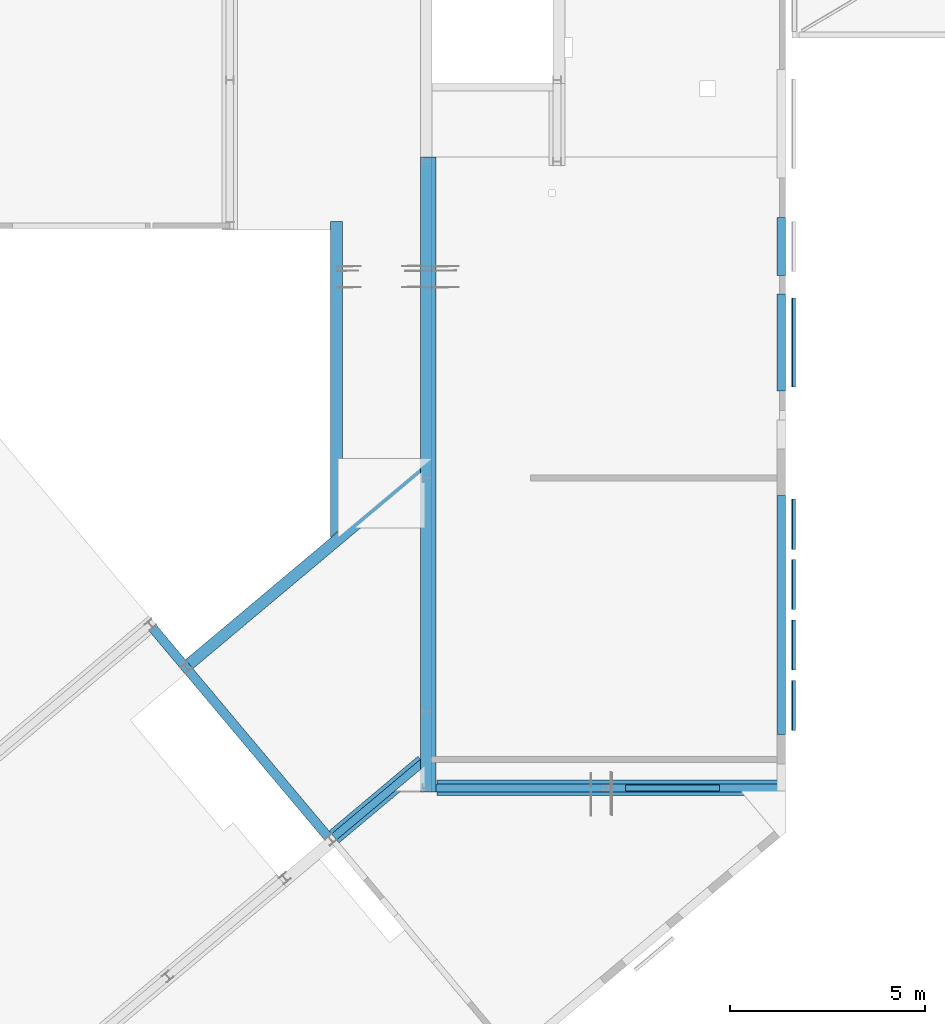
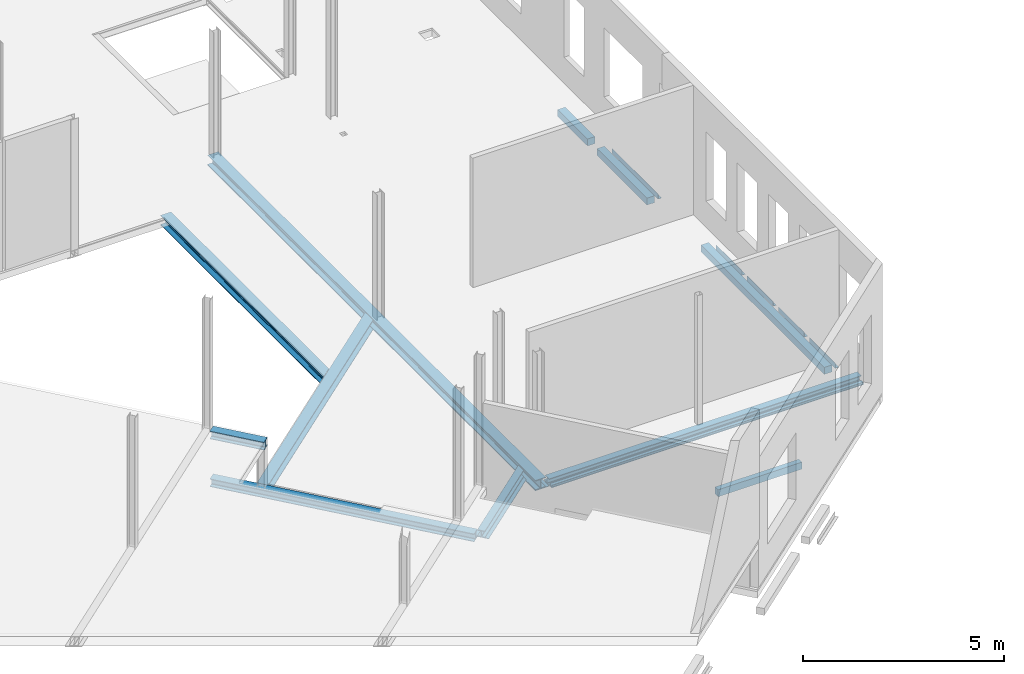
# One storey, part 6 of 16: 18 beams.
"""IFC2X3 building model written with IfcOpenShell, lengths in millimetres."""

from ifc_helpers import new_model, entity, si_unit, converted_unit, derived_unit, direction, frame, frame_2d, origin, origin_2d_with_axis, place, context, subcontext, project, spatial, polyline, circle_curve, parameter, trimmed, segment, composite_curve, rectangle, i_section, outline, extrude, clip, halfspace, source, transform, mapped, material, material_list, type_object, type_shapes, element, save


model = new_model("IFC2X3")

# Units and contexts
model_context = context("Model", 3, precision=0.01, world=origin(), true_north=direction((6.12303176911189e-17, 1.0)))
body_context = subcontext(model_context, "Body", "Model", "MODEL_VIEW")
ifc_project = project(units=[si_unit("LENGTHUNIT", "METRE", prefix="MILLI"), si_unit("AREAUNIT", "SQUARE_METRE"), si_unit("VOLUMEUNIT", "CUBIC_METRE"), converted_unit("PLANEANGLEUNIT", "DEGREE", entity("IfcRatioMeasure", 0.0174532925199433), si_unit("PLANEANGLEUNIT", "RADIAN"), dimensions=[0, 0, 0, 0, 0, 0, 0]), si_unit("MASSUNIT", "GRAM", prefix="KILO"), derived_unit("MASSDENSITYUNIT", [(si_unit("MASSUNIT", "GRAM", prefix="KILO"), 1), (si_unit("LENGTHUNIT", "METRE"), -3)]), derived_unit("MOMENTOFINERTIAUNIT", [(si_unit("LENGTHUNIT", "METRE"), 4)]), si_unit("TIMEUNIT", "SECOND"), si_unit("FREQUENCYUNIT", "HERTZ"), si_unit("THERMODYNAMICTEMPERATUREUNIT", "DEGREE_CELSIUS"), derived_unit("THERMALTRANSMITTANCEUNIT", [(si_unit("MASSUNIT", "GRAM", prefix="KILO"), 1), (si_unit("THERMODYNAMICTEMPERATUREUNIT", "KELVIN"), -1), (si_unit("TIMEUNIT", "SECOND"), -3)]), derived_unit("VOLUMETRICFLOWRATEUNIT", [(si_unit("LENGTHUNIT", "METRE"), 3), (si_unit("TIMEUNIT", "SECOND"), -1)]), si_unit("ELECTRICCURRENTUNIT", "AMPERE"), si_unit("ELECTRICVOLTAGEUNIT", "VOLT"), si_unit("POWERUNIT", "WATT"), si_unit("FORCEUNIT", "NEWTON", prefix="KILO"), si_unit("ILLUMINANCEUNIT", "LUX"), si_unit("LUMINOUSFLUXUNIT", "LUMEN"), si_unit("LUMINOUSINTENSITYUNIT", "CANDELA"), derived_unit("USERDEFINED", [(si_unit("MASSUNIT", "GRAM", prefix="KILO"), -1), (si_unit("LENGTHUNIT", "METRE"), -2), (si_unit("TIMEUNIT", "SECOND"), 3), (si_unit("LUMINOUSFLUXUNIT", "LUMEN"), 1)]), derived_unit("LINEARVELOCITYUNIT", [(si_unit("LENGTHUNIT", "METRE"), 1), (si_unit("TIMEUNIT", "SECOND"), -1)]), si_unit("PRESSUREUNIT", "PASCAL"), derived_unit("USERDEFINED", [(si_unit("LENGTHUNIT", "METRE"), -2), (si_unit("MASSUNIT", "GRAM", prefix="KILO"), 1), (si_unit("TIMEUNIT", "SECOND"), -2)]), derived_unit("LINEARFORCEUNIT", [(si_unit("MASSUNIT", "GRAM", prefix="KILO"), 1), (si_unit("LENGTHUNIT", "METRE"), 1), (si_unit("TIMEUNIT", "SECOND"), -2), (si_unit("LENGTHUNIT", "METRE"), -1)]), derived_unit("PLANARFORCEUNIT", [(si_unit("MASSUNIT", "GRAM", prefix="KILO"), 1), (si_unit("LENGTHUNIT", "METRE"), 1), (si_unit("TIMEUNIT", "SECOND"), -2), (si_unit("LENGTHUNIT", "METRE"), -2)])], contexts=[model_context])

# Site, building, storey
site_placement = place(None, origin())
site = spatial("IfcSite", under=ifc_project, at=site_placement, Name="Default", CompositionType="ELEMENT")
building_placement = place(site_placement, origin())
building = spatial("IfcBuilding", under=site, at=building_placement, CompositionType="ELEMENT")
storey_placement = place(building_placement, frame((0.0, 0.0, 3500.0)))
storey = spatial("IfcBuildingStorey", under=building, at=storey_placement, Name="01 eerste verdieping", CompositionType="ELEMENT", Elevation=3500.00000000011)

# Beams
ifc_material_1 = material(Name="00_Staal_generiek")
beam_type_1 = type_object("IfcBeamType", Name="BERSnl_28_SF_LIB_balk hoeklijn ongelijk_gen_ISR:balk gen l150x100x10", PredefinedType="BEAM")
beam_1_placement = place(storey_placement, frame((35016.8270571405, 12747.9986417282, -560.0), z_axis=(0.0, 0.0, 1.0), x_axis=(0.0, 1.0, 0.0)))
element("IfcBeam", 1, at=beam_1_placement, inside=storey, type_object=beam_type_1, material=ifc_material_1, Name="BERSnl_28_SF_LIB_balk hoeklijn ongelijk_gen_ISR:balk gen l150x100x10", ObjectType="BERSnl_28_SF_LIB_balk hoeklijn ongelijk_gen_ISR:balk gen l150x100x10", context=body_context, shape_type="SweptSolid", body=[
    extrude(outline(composite_curve([segment(polyline([(50.4444444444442, -62.222222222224), (54.4444444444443, -62.222222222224)]), True, "CONTINUOUS"), segment(polyline([(54.4444444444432, -62.222222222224), (54.4444444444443, 37.7777777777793)]), True, "CONTINUOUS"), segment(polyline([(54.4444444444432, 37.777777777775), (-95.5555555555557, 37.7777777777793)]), True, "CONTINUOUS"), segment(polyline([(-95.5555555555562, 37.7777777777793), (-95.5555555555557, 33.7777777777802)]), True, "CONTINUOUS"), segment(trimmed(circle_curve(frame_2d((-89.5555555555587, 33.7777777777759), x_axis=(-1.0, 0.0)), 5.99999999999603), [parameter(0.0)], [parameter(90.0000000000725)], True, "PARAMETER"), True, "CONTINUOUS"), segment(polyline([(-89.5555555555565, 27.7777777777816), (32.444444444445, 27.7777777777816)]), True, "CONTINUOUS"), segment(trimmed(circle_curve(frame_2d((32.4444444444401, 15.7777777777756), x_axis=(0.0, 1.0)), 12.000000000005), [parameter(270.000000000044)], [parameter(0.0)], True, "PARAMETER"), False, "CONTINUOUS"), segment(polyline([(44.4444444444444, 15.7777777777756), (44.444444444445, -56.2222222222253)]), True, "CONTINUOUS"), segment(trimmed(circle_curve(frame_2d((50.4444444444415, -56.2222222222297), x_axis=(-1.0, 0.0)), 5.99999999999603), [parameter(0.0)], [parameter(90.0000000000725)], True, "PARAMETER"), True, "CONTINUOUS")], self_intersect=False)), frame((-703.388041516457, -14.3777777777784, -95.5555555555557), z_axis=(1.0, 0.0, 0.0), x_axis=(0.0, 0.0, -1.0)), (0.0, 0.0, 1.0), 2288.02307014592),
])
beam_2_placement = place(storey_placement, frame((35016.8270571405, 7274.9986417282, -350.0), z_axis=(0.0, 0.0, 1.0), x_axis=(0.0, 1.0, 0.0)))
element("IfcBeam", 2, at=beam_2_placement, inside=storey, type_object=beam_type_1, material=ifc_material_1, Name="BERSnl_28_SF_LIB_balk hoeklijn ongelijk_gen_ISR:balk gen l150x100x10", ObjectType="BERSnl_28_SF_LIB_balk hoeklijn ongelijk_gen_ISR:balk gen l150x100x10", context=body_context, shape_type="SweptSolid", body=[
    extrude(outline(composite_curve([segment(polyline([(50.4444444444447, -62.2222222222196), (54.4444444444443, -62.2222222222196)]), True, "CONTINUOUS"), segment(polyline([(54.4444444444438, -62.2222222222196), (54.4444444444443, 37.7777777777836)]), True, "CONTINUOUS"), segment(polyline([(54.4444444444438, 37.7777777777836), (-95.5555555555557, 37.7777777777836)]), True, "CONTINUOUS"), segment(polyline([(-95.5555555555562, 37.7777777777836), (-95.5555555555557, 33.7777777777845)]), True, "CONTINUOUS"), segment(trimmed(circle_curve(frame_2d((-89.5555555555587, 33.7777777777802), x_axis=(-1.0, 0.0)), 5.99999999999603), [parameter(0.0)], [parameter(90.0000000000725)], True, "PARAMETER"), True, "CONTINUOUS"), segment(polyline([(-89.555555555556, 27.7777777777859), (32.444444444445, 27.7777777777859)]), True, "CONTINUOUS"), segment(trimmed(circle_curve(frame_2d((32.4444444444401, 15.77777777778), x_axis=(0.0, 1.0)), 12.000000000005), [parameter(270.000000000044)], [parameter(0.0)], True, "PARAMETER"), False, "CONTINUOUS"), segment(polyline([(44.444444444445, 15.7777777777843), (44.444444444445, -56.222222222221)]), True, "CONTINUOUS"), segment(trimmed(circle_curve(frame_2d((50.4444444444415, -56.2222222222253), x_axis=(-1.0, 0.0)), 5.99999999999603), [parameter(0.0)], [parameter(90.0000000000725)], True, "PARAMETER"), True, "CONTINUOUS")], self_intersect=False)), frame((600.571695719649, -14.3777777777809, -95.5555555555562), z_axis=(1.0, 0.0, 0.0), x_axis=(0.0, 0.0, -1.0)), (0.0, 0.0, 1.0), 1285.99999999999),
])
beam_3_placement = place(storey_placement, frame((35016.8270571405, 5743.73943726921, -350.0), z_axis=(0.0, 0.0, 1.0), x_axis=(0.0, 1.0, 0.0)))
element("IfcBeam", 3, at=beam_3_placement, inside=storey, type_object=beam_type_1, material=ifc_material_1, Name="BERSnl_28_SF_LIB_balk hoeklijn ongelijk_gen_ISR:balk gen l150x100x10", ObjectType="BERSnl_28_SF_LIB_balk hoeklijn ongelijk_gen_ISR:balk gen l150x100x10", context=body_context, shape_type="SweptSolid", body=[
    extrude(outline(composite_curve([segment(polyline([(50.4444444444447, -62.222222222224), (54.4444444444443, -62.222222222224)]), True, "CONTINUOUS"), segment(polyline([(54.4444444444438, -62.222222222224), (54.4444444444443, 37.7777777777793)]), True, "CONTINUOUS"), segment(polyline([(54.4444444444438, 37.7777777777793), (-95.5555555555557, 37.7777777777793)]), True, "CONTINUOUS"), segment(polyline([(-95.5555555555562, 37.7777777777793), (-95.5555555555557, 33.7777777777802)]), True, "CONTINUOUS"), segment(trimmed(circle_curve(frame_2d((-89.5555555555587, 33.7777777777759), x_axis=(-1.0, 0.0)), 5.99999999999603), [parameter(0.0)], [parameter(90.0000000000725)], True, "PARAMETER"), True, "CONTINUOUS"), segment(polyline([(-89.555555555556, 27.7777777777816), (32.444444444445, 27.7777777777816)]), True, "CONTINUOUS"), segment(trimmed(circle_curve(frame_2d((32.4444444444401, 15.7777777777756), x_axis=(0.0, 1.0)), 12.000000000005), [parameter(270.000000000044)], [parameter(0.0)], True, "PARAMETER"), False, "CONTINUOUS"), segment(polyline([(44.444444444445, 15.77777777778), (44.444444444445, -56.2222222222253)]), True, "CONTINUOUS"), segment(trimmed(circle_curve(frame_2d((50.4444444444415, -56.2222222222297), x_axis=(-1.0, 0.0)), 5.99999999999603), [parameter(0.0)], [parameter(90.0000000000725)], True, "PARAMETER"), True, "CONTINUOUS")], self_intersect=False)), frame((582.297986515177, -14.3777777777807, -95.5555555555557), z_axis=(1.0, 0.0, 0.0), x_axis=(0.0, 0.0, -1.0)), (0.0, 0.0, 1.0), 1285.53291366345),
])
beam_4_placement = place(storey_placement, frame((35016.8270571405, 4193.73943726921, -350.0), z_axis=(0.0, 0.0, 1.0), x_axis=(0.0, 1.0, 0.0)))
element("IfcBeam", 4, at=beam_4_placement, inside=storey, type_object=beam_type_1, material=ifc_material_1, Name="BERSnl_28_SF_LIB_balk hoeklijn ongelijk_gen_ISR:balk gen l150x100x10", ObjectType="BERSnl_28_SF_LIB_balk hoeklijn ongelijk_gen_ISR:balk gen l150x100x10", context=body_context, shape_type="SweptSolid", body=[
    extrude(outline(composite_curve([segment(polyline([(50.4444444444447, -62.2222222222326), (54.4444444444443, -62.2222222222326)]), True, "CONTINUOUS"), segment(polyline([(54.4444444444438, -62.2222222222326), (54.4444444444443, 37.7777777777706)]), True, "CONTINUOUS"), segment(polyline([(54.4444444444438, 37.7777777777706), (-95.5555555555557, 37.7777777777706)]), True, "CONTINUOUS"), segment(polyline([(-95.5555555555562, 37.7777777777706), (-95.5555555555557, 33.7777777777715)]), True, "CONTINUOUS"), segment(trimmed(circle_curve(frame_2d((-89.5555555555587, 33.7777777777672), x_axis=(-1.0, 0.0)), 5.99999999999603), [parameter(0.0)], [parameter(90.0000000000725)], True, "PARAMETER"), True, "CONTINUOUS"), segment(polyline([(-89.555555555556, 27.7777777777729), (32.444444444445, 27.7777777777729)]), True, "CONTINUOUS"), segment(trimmed(circle_curve(frame_2d((32.4444444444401, 15.777777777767), x_axis=(0.0, 1.0)), 12.000000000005), [parameter(270.000000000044)], [parameter(0.0)], True, "PARAMETER"), False, "CONTINUOUS"), segment(polyline([(44.444444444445, 15.7777777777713), (44.444444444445, -56.222222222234)]), True, "CONTINUOUS"), segment(trimmed(circle_curve(frame_2d((50.4444444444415, -56.2222222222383), x_axis=(-1.0, 0.0)), 5.99999999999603), [parameter(0.0)], [parameter(90.0000000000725)], True, "PARAMETER"), True, "CONTINUOUS")], self_intersect=False)), frame((582.297986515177, -14.3777777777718, -95.5555555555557), z_axis=(1.0, 0.0, 0.0), x_axis=(0.0, 0.0, -1.0)), (0.0, 0.0, 1.0), 1285.53291366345),
])
beam_5_placement = place(storey_placement, frame((35016.8270571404, 2662.48023281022, -350.0), z_axis=(0.0, 0.0, 1.0), x_axis=(0.0, 1.0, 0.0)))
element("IfcBeam", 5, at=beam_5_placement, inside=storey, type_object=beam_type_1, material=ifc_material_1, Name="BERSnl_28_SF_LIB_balk hoeklijn ongelijk_gen_ISR:balk gen l150x100x10", ObjectType="BERSnl_28_SF_LIB_balk hoeklijn ongelijk_gen_ISR:balk gen l150x100x10", context=body_context, shape_type="SweptSolid", body=[
    extrude(outline(composite_curve([segment(polyline([(50.4444444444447, -62.2222222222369), (54.4444444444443, -62.2222222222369)]), True, "CONTINUOUS"), segment(polyline([(54.4444444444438, -62.2222222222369), (54.4444444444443, 37.7777777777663)]), True, "CONTINUOUS"), segment(polyline([(54.4444444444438, 37.7777777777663), (-95.5555555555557, 37.7777777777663)]), True, "CONTINUOUS"), segment(polyline([(-95.5555555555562, 37.7777777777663), (-95.5555555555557, 33.7777777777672)]), True, "CONTINUOUS"), segment(trimmed(circle_curve(frame_2d((-89.5555555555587, 33.7777777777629), x_axis=(-1.0, 0.0)), 5.99999999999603), [parameter(0.0)], [parameter(90.0000000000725)], True, "PARAMETER"), True, "CONTINUOUS"), segment(polyline([(-89.555555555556, 27.7777777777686), (32.444444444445, 27.7777777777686)]), True, "CONTINUOUS"), segment(trimmed(circle_curve(frame_2d((32.4444444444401, 15.7777777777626), x_axis=(0.0, 1.0)), 12.000000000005), [parameter(270.000000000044)], [parameter(0.0)], True, "PARAMETER"), False, "CONTINUOUS"), segment(polyline([(44.444444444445, 15.777777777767), (44.444444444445, -56.2222222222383)]), True, "CONTINUOUS"), segment(trimmed(circle_curve(frame_2d((50.4444444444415, -56.2222222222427), x_axis=(-1.0, 0.0)), 5.99999999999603), [parameter(0.0)], [parameter(90.0000000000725)], True, "PARAMETER"), True, "CONTINUOUS")], self_intersect=False)), frame((563.090104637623, -14.3777777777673, -95.5555555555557), z_axis=(1.0, 0.0, 0.0), x_axis=(0.0, 0.0, -1.0)), (0.0, 0.0, 1.0), 1286.0),
])
ifc_material_2 = material(Name="f2_beton prefab")
beam_type_2 = type_object("IfcBeamType", Name="BERSnl_28_SF_LIB_balk vierkant prefab_gen_ISR:balk vierkant gen 150x210", PredefinedType="JOIST")
beam_6_placement = place(storey_placement, frame((31219.4057268, 1752.29662827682, -1758.0)))
element("IfcBeam", 6, at=beam_6_placement, inside=storey, type_object=beam_type_2, material=ifc_material_2, Name="BERSnl_28_SF_LIB_balk vierkant prefab_gen_ISR:balk vierkant gen 150x210", ObjectType="BERSnl_28_SF_LIB_balk vierkant prefab_gen_ISR:balk vierkant gen 150x210", context=body_context, shape_type="SweptSolid", body=[
    extrude(rectangle(XDim=210.000000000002, YDim=149.999999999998, at=frame_2d((0.0, 7.58149099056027e-12), x_axis=(1.0, 0.0))), frame((-486.596863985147, 0.0, -105.0), z_axis=(1.0, 0.0, 0.0), x_axis=(0.0, 0.0, -1.0)), (0.0, 0.0, 1.0), 2404.61819432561),
])
beam_type_3 = type_object("IfcBeamType", Name="BERSnl_28_SF_LIB_balk vierkant prefab_gen_ISR:balk vierkant gen 214x210", PredefinedType="JOIST")
beam_7_placement = place(storey_placement, frame((34726.4270571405, 14442.29829599, -490.0), z_axis=(0.0, 0.0, 1.0), x_axis=(0.0, 1.0, 0.0)))
element("IfcBeam", 7, at=beam_7_placement, inside=storey, type_object=beam_type_3, material=ifc_material_2, Name="BERSnl_28_SF_LIB_balk vierkant prefab_gen_ISR:balk vierkant gen 214x210", ObjectType="BERSnl_28_SF_LIB_balk vierkant prefab_gen_ISR:balk vierkant gen 214x210", context=body_context, shape_type="SweptSolid", body=[
    extrude(rectangle(XDim=210.000000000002, YDim=213.999999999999, at=frame_2d((0.0, 2.16715534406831e-12), x_axis=(1.0, 0.0))), frame((462.335374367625, 0.0, -105.0), z_axis=(1.0, 0.0, 0.0), x_axis=(0.0, 0.0, -1.0)), (0.0, 0.0, 1.0), 1483.51708196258),
])
beam_8_placement = place(storey_placement, frame((34726.4270571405, 12732.29829599, -490.0), z_axis=(0.0, 0.0, 1.0), x_axis=(0.0, 1.0, 0.0)))
element("IfcBeam", 8, at=beam_8_placement, inside=storey, type_object=beam_type_3, material=ifc_material_2, Name="BERSnl_28_SF_LIB_balk vierkant prefab_gen_ISR:balk vierkant gen 214x210", ObjectType="BERSnl_28_SF_LIB_balk vierkant prefab_gen_ISR:balk vierkant gen 214x210", context=body_context, shape_type="SweptSolid", body=[
    extrude(rectangle(XDim=210.000000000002, YDim=213.999999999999, at=frame_2d((0.0, -2.16715534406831e-12), x_axis=(1.0, 0.0))), frame((-787.687695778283, 0.0, -105.0), z_axis=(1.0, 0.0, 0.0), x_axis=(0.0, 0.0, -1.0)), (0.0, 0.0, 1.0), 2488.02307014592),
])
beam_9_placement = place(storey_placement, frame((34726.4270571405, 7259.29829599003, -280.0), z_axis=(0.0, 0.0, 1.0), x_axis=(0.0, 1.0, 0.0)))
element("IfcBeam", 9, at=beam_9_placement, inside=storey, type_object=beam_type_3, material=ifc_material_2, Name="BERSnl_28_SF_LIB_balk vierkant prefab_gen_ISR:balk vierkant gen 214x210", ObjectType="BERSnl_28_SF_LIB_balk vierkant prefab_gen_ISR:balk vierkant gen 214x210", context=body_context, shape_type="SweptSolid", body=[
    extrude(rectangle(XDim=210.000000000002, YDim=213.999999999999, at=frame_2d((0.0, -2.16715534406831e-12), x_axis=(1.0, 0.0))), frame((-4133.72795854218, 0.0, -105.0), z_axis=(1.0, 0.0, 0.0), x_axis=(0.0, 0.0, -1.0)), (0.0, 0.0, 1.0), 6136.0),
])
beam_type_4 = type_object("IfcBeamType", Name="BERSnl_28_SF_LIB_balk heb_gen_ISR:balk gen heb300", PredefinedType="BEAM")
beam_10_placement = place(storey_placement, frame((25615.4349765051, 15887.2966282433, 390.0), z_axis=(0.0, 0.0, 1.0), x_axis=(0.0, 1.0, 0.0)))
element("IfcBeam", 10, at=beam_10_placement, inside=storey, type_object=beam_type_4, material=ifc_material_1, Name="BERSnl_28_SF_LIB_balk heb_gen_ISR:balk gen heb300", ObjectType="BERSnl_28_SF_LIB_balk heb_gen_ISR:balk gen heb300", context=body_context, shape_type="SweptSolid", body=[
    extrude(i_section(OverallWidth=300.000000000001, OverallDepth=300.0, WebThickness=11.0000000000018, FlangeThickness=19.0000000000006, FilletRadius=26.9999999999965, at=frame_2d((-5.40012479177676e-13, 4.33431068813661e-12), x_axis=(0.0, 1.0))), frame((-14244.9823438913, 0.0, -150.0), z_axis=(1.0, 0.0, 0.0), x_axis=(0.0, 0.0, -1.0)), (0.0, 0.0, 1.0), 16301.2555154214),
])
beam_11_placement = place(storey_placement, frame((23310.4349765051, 15019.2227597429, 370.0), z_axis=(0.0, 0.0, 1.0), x_axis=(0.0, 1.0, 0.0)))
element("IfcBeam", 11, at=beam_11_placement, inside=storey, type_object=beam_type_4, material=ifc_material_1, Name="BERSnl_28_SF_LIB_balk heb_gen_ISR:balk gen heb300", ObjectType="BERSnl_28_SF_LIB_balk heb_gen_ISR:balk gen heb300", context=body_context, shape_type="SweptSolid", body=[
    clip(extrude(i_section(OverallWidth=300.000000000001, OverallDepth=300.0, WebThickness=11.0000000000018, FlangeThickness=19.0000000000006, FilletRadius=26.9999999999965, at=frame_2d((-5.40012479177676e-13, 0.0), x_axis=(0.0, 1.0))), frame((-6831.42420180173, 0.0, -150.0), z_axis=(1.0, 0.0, 0.0), x_axis=(0.0, 0.0, -1.0)), (0.0, 0.0, 1.0), 8104.49807030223), halfspace(frame((-6846.28789973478, 167.713865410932, 280.0), z_axis=(-0.766044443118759, -0.642787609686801, 0.0), x_axis=(-0.642787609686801, 0.766044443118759, 0.0)), False)),
])
beam_12_placement = place(storey_placement, frame((22751.0855013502, 7633.35967168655, 370.0), z_axis=(0.0, 0.0, 1.0), x_axis=(0.76604444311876, 0.642787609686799, 0.0)))
element("IfcBeam", 12, at=beam_12_placement, inside=storey, type_object=beam_type_4, material=ifc_material_1, Name="BERSnl_28_SF_LIB_balk heb_gen_ISR:balk gen heb300", ObjectType="BERSnl_28_SF_LIB_balk heb_gen_ISR:balk gen heb300", context=body_context, shape_type="SweptSolid", body=[
    clip(extrude(outline(composite_curve([segment(polyline([(131.0, -150.0), (150.0, -150.0)]), True, "CONTINUOUS"), segment(polyline([(150.0, -150.0), (150.0, 150.0)]), True, "CONTINUOUS"), segment(polyline([(150.0, 150.0), (131.0, 150.0)]), True, "CONTINUOUS"), segment(polyline([(131.0, 150.0), (131.0, 32.5000000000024)]), True, "CONTINUOUS"), segment(trimmed(circle_curve(frame_2d((104.0, 32.5000000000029), x_axis=(1.0, 0.0)), 27.0000000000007), [parameter(270.000000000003)], [parameter(0.0)], True, "PARAMETER"), False, "CONTINUOUS"), segment(polyline([(104.0, 5.500000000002), (-104.0, 5.50000000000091)]), True, "CONTINUOUS"), segment(trimmed(circle_curve(frame_2d((-104.0, 32.5000000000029), x_axis=(0.0, -1.0)), 27.0000000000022), [parameter(270.000000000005)], [parameter(0.0)], True, "PARAMETER"), False, "CONTINUOUS"), segment(polyline([(-131.0, 32.5000000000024), (-131.0, 150.0)]), True, "CONTINUOUS"), segment(polyline([(-131.0, 150.0), (-150.0, 150.0)]), True, "CONTINUOUS"), segment(polyline([(-150.0, 150.0), (-150.0, -150.0)]), True, "CONTINUOUS"), segment(polyline([(-150.0, -150.0), (-131.0, -150.0)]), True, "CONTINUOUS"), segment(polyline([(-131.0, -150.0), (-131.0, -32.4999999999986)]), True, "CONTINUOUS"), segment(trimmed(circle_curve(frame_2d((-104.0, -32.4999999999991), x_axis=(-1.0, 0.0)), 27.0000000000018), [parameter(270.000000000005)], [parameter(0.0)], True, "PARAMETER"), False, "CONTINUOUS"), segment(polyline([(-104.0, -5.49999999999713), (104.0, -5.49999999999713)]), True, "CONTINUOUS"), segment(trimmed(circle_curve(frame_2d((104.0, -32.4999999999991), x_axis=(0.0, 1.0)), 27.0000000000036), [parameter(270.000000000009)], [parameter(0.0)], True, "PARAMETER"), False, "CONTINUOUS"), segment(polyline([(131.0, -32.4999999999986), (131.0, -150.0)]), True, "CONTINUOUS")], self_intersect=False)), frame((-4209.97157436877, 0.0, -150.0), z_axis=(1.0, 0.0, 0.0), x_axis=(0.0, 0.0, -1.0)), (0.0, 0.0, 1.0), 7877.94151467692), halfspace(frame((3677.23641255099, 161.043351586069, 280.0), z_axis=(0.76604444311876, -0.642787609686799, 0.0), x_axis=(0.642787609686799, 0.76604444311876, 0.0)), False)),
])
ifc_material_3 = material(Name="h2_staal")
beam_type_5 = type_object("IfcBeamType", Name="BERSnl_28_SF_LIB_balk strip_gen_ISR:balk strip  gen 400x15", PredefinedType="USERDEFINED")
beam_13_placement = place(storey_placement, frame((25865.4349765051, 19987.9321524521, 82.4999999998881), z_axis=(0.0, 0.0, 1.0), x_axis=(0.0, -1.0, 0.0)))
element("IfcBeam", 13, at=beam_13_placement, inside=storey, type_object=beam_type_5, material=ifc_material_3, Name="BERSnl_28_SF_LIB_balk strip_gen_ISR:balk strip  gen 400x15", ObjectType="BERSnl_28_SF_LIB_balk strip_gen_ISR:balk strip  gen 400x15", context=body_context, shape_type="SweptSolid", body=[
    extrude(rectangle(XDim=15.0000000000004, YDim=400.0, at=frame_2d((-5.68478597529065e-12, 2.1600499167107e-12), x_axis=(1.0, 0.0))), frame((2044.36235267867, -200.0, 0.0), z_axis=(1.0, 0.0, 0.0), x_axis=(0.0, 0.0, -1.0)), (0.0, 0.0, 1.0), 16301.2731714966),
])
ifc_material_4 = material(Name="<Unnamed>")
ifc_material_list_1 = material_list([ifc_material_4, ifc_material_1])
beam_type_6 = type_object("IfcBeamType", Name="BERSnl_28_SF_LIB_balk sfb_gen_ISR:balk gen heb200 400x15", PredefinedType="T_BEAM", material=ifc_material_list_1)
shared_shape_1 = source(origin(), body_context, "Body", "SweptSolid", [
    clip(extrude(outline(composite_curve([segment(polyline([(85.0, -100.0), (100.0, -100.0)]), True, "CONTINUOUS"), segment(polyline([(100.0, -100.0), (100.0, 100.0)]), True, "CONTINUOUS"), segment(polyline([(100.0, 100.0), (85.0, 100.0)]), True, "CONTINUOUS"), segment(polyline([(85.0, 100.0), (85.0, 22.5000000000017)]), True, "CONTINUOUS"), segment(trimmed(circle_curve(frame_2d((67.0, 22.500000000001), x_axis=(1.0, 0.0)), 17.9999999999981), [parameter(269.999999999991)], [parameter(0.0)], True, "PARAMETER"), False, "CONTINUOUS"), segment(polyline([(67.0, 4.50000000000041), (-67.0, 4.5000000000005)]), True, "CONTINUOUS"), segment(trimmed(circle_curve(frame_2d((-67.0, 22.5000000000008), x_axis=(0.0, -1.0)), 17.9999999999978), [parameter(269.99999999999)], [parameter(0.0)], True, "PARAMETER"), False, "CONTINUOUS"), segment(polyline([(-85.0, 22.5000000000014), (-85.0, 100.0)]), True, "CONTINUOUS"), segment(polyline([(-85.0, 100.0), (-100.0, 100.0)]), True, "CONTINUOUS"), segment(polyline([(-100.0, 100.0), (-100.0, -100.0)]), True, "CONTINUOUS"), segment(polyline([(-100.0, -100.0), (-85.0, -100.0)]), True, "CONTINUOUS"), segment(polyline([(-85.0, -100.0), (-85.0, -22.5000000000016)]), True, "CONTINUOUS"), segment(trimmed(circle_curve(frame_2d((-67.0, -22.5000000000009), x_axis=(-1.0, 0.0)), 17.9999999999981), [parameter(269.999999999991)], [parameter(0.0)], True, "PARAMETER"), False, "CONTINUOUS"), segment(polyline([(-67.0, -4.50000000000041), (67.0, -4.50000000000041)]), True, "CONTINUOUS"), segment(trimmed(circle_curve(frame_2d((67.0, -22.5000000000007), x_axis=(0.0, 1.0)), 17.9999999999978), [parameter(269.99999999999)], [parameter(0.0)], True, "PARAMETER"), False, "CONTINUOUS"), segment(polyline([(85.0, -22.5000000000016), (85.0, -100.0)]), True, "CONTINUOUS")], self_intersect=False)), frame((23246.1033606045, 493.867270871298, 3750.0), z_axis=(0.76604444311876, 0.642787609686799, 0.0), x_axis=(0.0, 0.0, 1.0)), (0.0, 0.0, 1.0), 2973.31529162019), halfspace(frame((25459.5162564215, 2055.32251131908, 4150.0), z_axis=(1.0, 0.0, 0.0), x_axis=(0.0, -1.0, 0.0)), False)),
    clip(extrude(rectangle(XDim=14.9999999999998, YDim=400.000000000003, at=frame_2d((0.0, 2.58637555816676e-12), x_axis=(1.0, 0.0))), frame((23246.1033606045, 493.867270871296, 3642.5), z_axis=(0.766044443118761, 0.642787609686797, 0.0), x_axis=(0.0, 0.0, 1.0)), (0.0, 0.0, 1.0), 2977.95388404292), halfspace(frame((25459.5162564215, 2055.32251131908, 4150.0), z_axis=(1.0, 0.0, 0.0), x_axis=(0.0, -1.0, 0.0)), False)),
])
type_shapes(beam_type_6, [shared_shape_1])
beam_14_placement = place(storey_placement, frame((0.0, 0.0, -3500.0)))
element("IfcBeam", 14, at=beam_14_placement, inside=storey, type_object=beam_type_6, Name="BERSnl_28_SF_LIB_balk sfb_gen_ISR:balk gen heb200 400x15", ObjectType="BERSnl_28_SF_LIB_balk sfb_gen_ISR:balk gen heb200 400x15", context=body_context, shape_type="MappedRepresentation", body=[
    mapped(shared_shape_1, transform((0.0, 0.0, 0.0), scale=1.0)),
])
beam_type_7 = type_object("IfcBeamType", Name="BERSnl_28_SF_LIB_balk heb_gen_ISR:balk gen heb240", PredefinedType="BEAM")
beam_15_placement = place(storey_placement, frame((19334.4092553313, 4968.95591473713, 373.0), z_axis=(0.0, 0.0, 1.0), x_axis=(-0.642787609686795, 0.766044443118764, 0.0)))
element("IfcBeam", 15, at=beam_15_placement, inside=storey, type_object=beam_type_7, material=ifc_material_1, Name="BERSnl_28_SF_LIB_balk heb_gen_ISR:balk gen heb240", ObjectType="BERSnl_28_SF_LIB_balk heb_gen_ISR:balk gen heb240", context=body_context, shape_type="SweptSolid", body=[
    extrude(i_section(OverallWidth=240.0, OverallDepth=240.0, WebThickness=9.99999999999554, FlangeThickness=17.000000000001, FilletRadius=21.0000000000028, at=frame_2d((1.08713038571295e-12, 2.35900188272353e-12), x_axis=(0.0, 1.0))), frame((-5842.50529185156, 0.0, -120.0), z_axis=(1.0, 0.0, 0.0), x_axis=(0.0, 0.0, -1.0)), (0.0, 0.0, 1.0), 6994.9829352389),
])
beam_16_placement = place(storey_placement, frame((19184.2856895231, 5147.86621362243, 1823.0), z_axis=(0.0, 0.0, 1.0), x_axis=(-0.642787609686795, 0.766044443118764, 0.0)))
element("IfcBeam", 16, at=beam_16_placement, inside=storey, type_object=beam_type_7, material=ifc_material_1, Name="BERSnl_28_SF_LIB_balk heb_gen_ISR:balk gen heb240", ObjectType="BERSnl_28_SF_LIB_balk heb_gen_ISR:balk gen heb240", context=body_context, shape_type="SweptSolid", body=[
    extrude(i_section(OverallWidth=240.0, OverallDepth=240.0, WebThickness=10.0000000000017, FlangeThickness=17.0000000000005, FilletRadius=21.0000000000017, at=frame_2d((1.08713038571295e-12, -1.52056145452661e-12), x_axis=(0.0, 1.0))), frame((-516.391118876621, 0.0, -120.0), z_axis=(1.0, 0.0, 0.0), x_axis=(0.0, 0.0, -1.0)), (0.0, 0.0, 1.0), 1435.31795396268),
])
ifc_material_list_2 = material_list([ifc_material_4, ifc_material_1])
beam_type_8 = type_object("IfcBeamType", Name="BERSnl_28_SF_LIB_balk sfb_gen_ISR:balk gen heb200 400x15", PredefinedType="T_BEAM", material=ifc_material_list_2)
shared_shape_2 = source(origin(), body_context, "Body", "SweptSolid", [
    extrude(rectangle(XDim=15.0, YDim=400.0, at=origin_2d_with_axis()), frame((-5228.93009656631, 0.0, -60.5000000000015), z_axis=(1.0, 0.0, 0.0), x_axis=(0.0, 0.0, -1.0)), (0.0, 0.0, 1.0), 8946.62927167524),
    extrude(outline(composite_curve([segment(polyline([(85.0, -100.0), (100.0, -100.0)]), True, "CONTINUOUS"), segment(polyline([(100.0, -100.0), (100.0, 100.0)]), True, "CONTINUOUS"), segment(polyline([(100.0, 100.0), (85.0, 100.0)]), True, "CONTINUOUS"), segment(polyline([(85.0, 100.0), (85.0, 22.4999999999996)]), True, "CONTINUOUS"), segment(trimmed(circle_curve(frame_2d((67.0, 22.4999999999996), x_axis=(1.0, 0.0)), 18.0), [parameter(270.0)], [parameter(0.0)], True, "PARAMETER"), False, "CONTINUOUS"), segment(polyline([(67.0, 4.49999999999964), (-67.0, 4.49999999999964)]), True, "CONTINUOUS"), segment(trimmed(circle_curve(frame_2d((-67.0, 22.4999999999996), x_axis=(0.0, -1.0)), 18.0), [parameter(270.0)], [parameter(0.0)], True, "PARAMETER"), False, "CONTINUOUS"), segment(polyline([(-85.0, 22.4999999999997), (-85.0, 100.0)]), True, "CONTINUOUS"), segment(polyline([(-85.0, 100.0), (-100.0, 100.0)]), True, "CONTINUOUS"), segment(polyline([(-100.0, 100.0), (-100.0, -100.0)]), True, "CONTINUOUS"), segment(polyline([(-100.0, -100.0), (-85.0, -100.0)]), True, "CONTINUOUS"), segment(polyline([(-85.0, -100.0), (-85.0, -22.5000000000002)]), True, "CONTINUOUS"), segment(trimmed(circle_curve(frame_2d((-67.0, -22.5000000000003), x_axis=(-1.0, 0.0)), 18.0), [parameter(270.0)], [parameter(0.0)], True, "PARAMETER"), False, "CONTINUOUS"), segment(polyline([(-67.0, -4.50000000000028), (67.0, -4.50000000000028)]), True, "CONTINUOUS"), segment(trimmed(circle_curve(frame_2d((67.0, -22.5000000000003), x_axis=(0.0, 1.0)), 18.0), [parameter(270.0)], [parameter(0.0)], True, "PARAMETER"), False, "CONTINUOUS"), segment(polyline([(85.0, -22.5000000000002), (85.0, -100.0)]), True, "CONTINUOUS")], self_intersect=False)), frame((-5250.0, 0.0, 47.0), z_axis=(1.0, 0.0, 0.0), x_axis=(0.0, 0.0, -1.0)), (0.0, 0.0, 1.0), 8967.99208063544),
])
type_shapes(beam_type_8, [shared_shape_2])
beam_17_placement = place(storey_placement, frame((31115.4349765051, 1752.29662827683, 143.0)))
element("IfcBeam", 17, at=beam_17_placement, inside=storey, type_object=beam_type_8, Name="BERSnl_28_SF_LIB_balk sfb_gen_ISR:balk gen heb200 400x15", ObjectType="BERSnl_28_SF_LIB_balk sfb_gen_ISR:balk gen heb200 400x15", context=body_context, shape_type="MappedRepresentation", body=[
    mapped(shared_shape_2, transform((0.0, 0.0, 0.0), scale=1.0)),
])
ifc_material_5 = material(Name="h2_staal S235")
beam_type_9 = type_object("IfcBeamType", Name="BERSnl_28_SF_LIB_balk koker ongelijk_gen_ISR:balk gen k100x60x5", PredefinedType="BEAM")
beam_18_placement = place(storey_placement, frame((31475.4349765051, 1552.29662827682, 120.0), z_axis=(0.0, 0.0, 1.0), x_axis=(-1.0, 0.0, 0.0)))
element("IfcBeam", 18, at=beam_18_placement, inside=storey, type_object=beam_type_9, material=ifc_material_5, Name="BERSnl_28_SF_LIB_balk koker ongelijk_gen_ISR:balk gen k100x60x5", ObjectType="BERSnl_28_SF_LIB_balk koker ongelijk_gen_ISR:balk gen k100x60x5", context=body_context, shape_type="SweptSolid", body=[
    extrude(outline(composite_curve([segment(trimmed(circle_curve(frame_2d((-20.0, -40.0), x_axis=(1.0, 0.0)), 10.0), [parameter(180.0)], [parameter(270.0)], True, "PARAMETER"), True, "CONTINUOUS"), segment(polyline([(-20.0, -50.0), (20.0, -50.0)]), True, "CONTINUOUS"), segment(trimmed(circle_curve(frame_2d((20.0, -40.0), x_axis=(1.0, 0.0)), 10.0), [parameter(270.0)], [parameter(0.0)], True, "PARAMETER"), True, "CONTINUOUS"), segment(polyline([(30.0, -40.0), (30.0, 40.0)]), True, "CONTINUOUS"), segment(trimmed(circle_curve(frame_2d((20.0, 40.0), x_axis=(1.0, 0.0)), 10.0), [parameter(360.0)], [parameter(89.9999999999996)], True, "PARAMETER"), True, "CONTINUOUS"), segment(polyline([(20.0, 50.0), (-20.0, 50.0)]), True, "CONTINUOUS"), segment(trimmed(circle_curve(frame_2d((-20.0, 40.0), x_axis=(1.0, 0.0)), 10.0), [parameter(90.0000000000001)], [parameter(180.0)], True, "PARAMETER"), True, "CONTINUOUS"), segment(polyline([(-30.0, 40.0), (-30.0, -40.0)]), True, "CONTINUOUS")], self_intersect=False), holes=[composite_curve([segment(polyline([(20.0, -45.0), (-20.0, -45.0)]), True, "CONTINUOUS"), segment(trimmed(circle_curve(frame_2d((-20.0, -40.0), x_axis=(1.0, 0.0)), 5.0), [parameter(180.0)], [parameter(270.0)], True, "PARAMETER"), False, "CONTINUOUS"), segment(polyline([(-25.0, -40.0), (-25.0, 40.0)]), True, "CONTINUOUS"), segment(trimmed(circle_curve(frame_2d((-20.0, 40.0), x_axis=(1.0, 0.0)), 5.0), [parameter(90.0000000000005)], [parameter(180.0)], True, "PARAMETER"), False, "CONTINUOUS"), segment(polyline([(-20.0, 45.0), (20.0, 45.0)]), True, "CONTINUOUS"), segment(trimmed(circle_curve(frame_2d((20.0, 40.0), x_axis=(1.0, 0.0)), 5.0), [parameter(0.0)], [parameter(90.0000000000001)], True, "PARAMETER"), False, "CONTINUOUS"), segment(polyline([(25.0, 40.0), (25.0, -40.0)]), True, "CONTINUOUS"), segment(trimmed(circle_curve(frame_2d((20.0, -40.0), x_axis=(1.0, 0.0)), 5.0), [parameter(270.0)], [parameter(4.07110999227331e-13)], True, "PARAMETER"), False, "CONTINUOUS")], self_intersect=False)]), frame((-3357.69917510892, -50.0, 0.0), z_axis=(1.0, 0.0, 0.0), x_axis=(0.0, 0.0, 1.0)), (0.0, 0.0, 1.0), 8946.62927167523),
])

save(model, "model.ifc")
